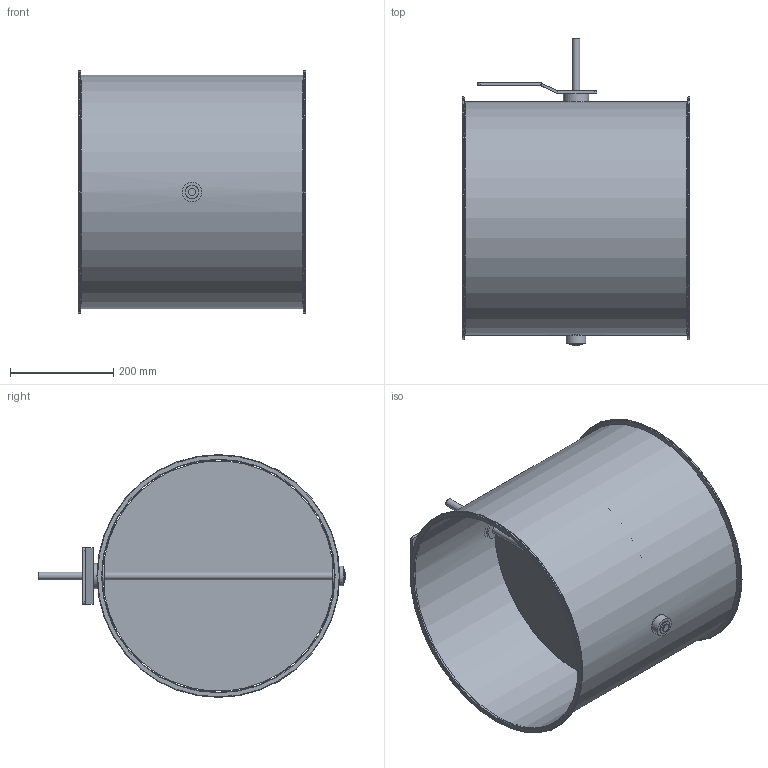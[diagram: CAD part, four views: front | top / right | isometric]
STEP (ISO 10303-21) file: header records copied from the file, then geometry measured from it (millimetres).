
FILE_DESCRIPTION(/* description */ (''),/* implementation_level */ '2;1');
FILE_NAME(/* name */ 'EA109-80B__450_L440_Belimo_Typen_NF_SF.stp',/* time_stamp */ '2017-12-07T10:42:33+01:00',/* author */ (''),/* organization */ (''),/* preprocessor_version */ 'ST-DEVELOPER v11',/* originating_system */ 'SIEMENS UGS NX 6.0',/* authorisation */ '');
FILE_SCHEMA (('CONFIG_CONTROL_DESIGN'));
Length unit declared in the file: millimetre
Products named in the file (1): gars5544kx83
Bounding box: 440 x 596 x 470 mm (x, y, z)
Volume: 1181274.9 mm3; surface area: 1710664.5 mm2
Topology: 8 solids, 8 shells, 78 faces, 164 edges, 104 vertices
Faces by surface type: plane 36, cylinder 34, torus 6, cone 2
Full cylindrical faces by diameter (mm): 6.1 x6, 15 x3, 25 x3, 25.85 x2, 26 x2, 38 x3, 49 x1, 450 x1, 452 x1, 470 x2
Entity records: 2028 total; most frequent: CARTESIAN_POINT 363, DIRECTION 346, ORIENTED_EDGE 244, AXIS2_PLACEMENT_3D 149, EDGE_LOOP 140, EDGE_CURVE 122, FACE_BOUND 110, VERTEX_POINT 94
